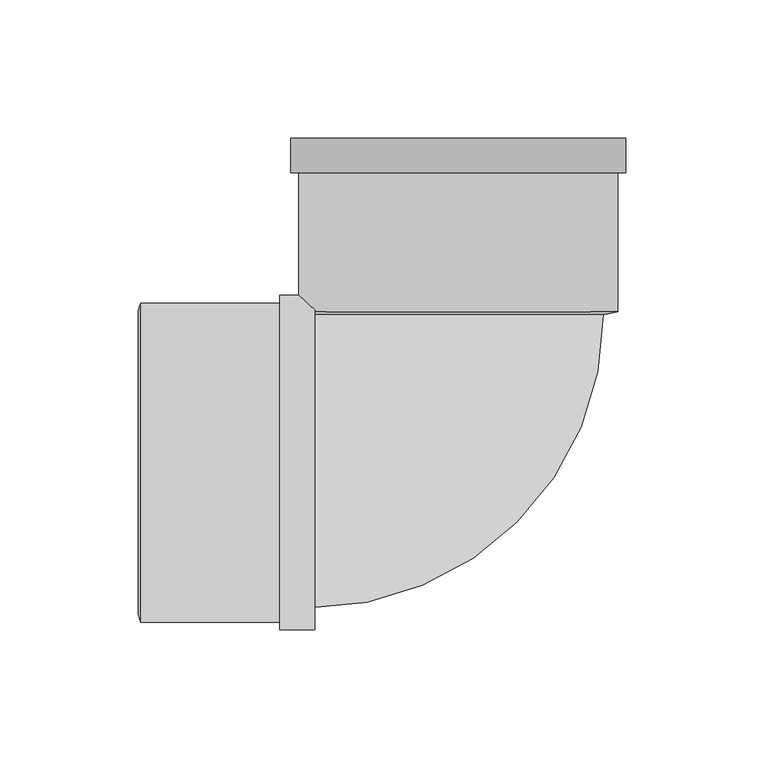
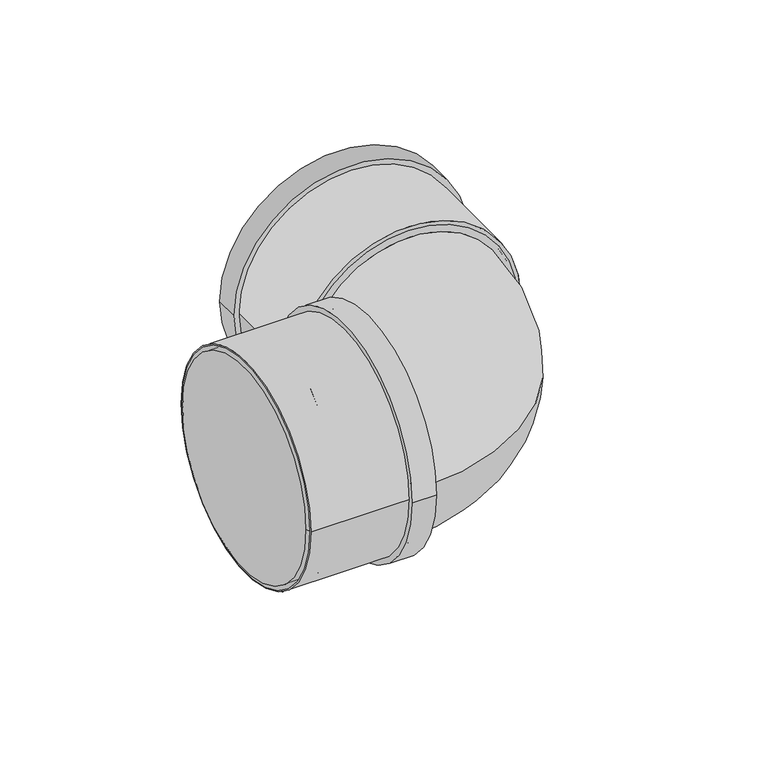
"""IFC4 building model written with IfcOpenShell, lengths in millimetres: pipe fitting geometry, Superdrain HT Bend Composite 2x45 : Superdrain HT Bend Composite 2x45."""

from ifc_helpers import new_model, si_unit, point, frame, origin, origin_2d, place, context, project, spatial, polyline, circle_curve, ellipse_curve, trimmed, segment, composite_curve, outline, extrude, source, transform, mapped, element, save
from ifc_brep_helpers import plane_surface, revolved_surface, advanced_brep


def pipe_fitting_11ccc1d9(model_context):
    return source(origin(), model_context, "Body", "SolidModel", [
        extrude(outline(composite_curve([segment(trimmed(circle_curve(origin_2d(), 57.75), [point((57.75, 0.0))], [point((-57.75, 0.0))], False, "CARTESIAN"), True, "CONTINUOUS"), segment(trimmed(circle_curve(origin_2d(), 57.75), [point((-57.75, 0.0))], [point((57.75, 0.0))], False, "CARTESIAN"), True, "CONTINUOUS")], self_intersect=False), holes=[composite_curve([segment(trimmed(circle_curve(origin_2d(), 55.0), [point((55.0, 0.0))], [point((-55.0, 0.0))], True, "CARTESIAN"), True, "CONTINUOUS"), segment(trimmed(circle_curve(origin_2d(), 55.0), [point((-55.0, 0.0))], [point((55.0, 0.0))], True, "CARTESIAN"), True, "CONTINUOUS")], self_intersect=False)]), frame((-115.0, 0.0, 0.0), z_axis=(1.0, 0.0, 0.0), x_axis=(0.0, 1.0, 0.0)), (0.0, 0.0, 1.0), 63.0),
        extrude(outline(composite_curve([segment(trimmed(circle_curve(origin_2d(), 60.6375), [point((60.6375, 0.0))], [point((-60.6375, 0.0))], False, "CARTESIAN"), True, "CONTINUOUS"), segment(trimmed(circle_curve(origin_2d(), 60.6375), [point((-60.6375, 0.0))], [point((60.6375, 0.0))], False, "CARTESIAN"), True, "CONTINUOUS")], self_intersect=False), holes=[composite_curve([segment(trimmed(circle_curve(origin_2d(), 55.0), [point((55.0, 0.0))], [point((-55.0, 0.0))], True, "CARTESIAN"), True, "CONTINUOUS"), segment(trimmed(circle_curve(origin_2d(), 55.0), [point((-55.0, 0.0))], [point((55.0, 0.0))], True, "CARTESIAN"), True, "CONTINUOUS")], self_intersect=False)]), frame((-64.6, 0.0, 0.0), z_axis=(1.0, 0.0, 0.0), x_axis=(0.0, 1.0, 0.0)), (0.0, 0.0, 1.0), 12.6),
        advanced_brep(
        [(-116.0, 55.0, 0.0), (-116.0, -55.0, 0.0), (-115.0, 57.75, 0.0), (-115.0, -57.75, 0.0)],
        [
            (0, 1, circle_curve(frame((-116.0, 0.0, 0.0), z_axis=(-1.0, 0.0, 0.0), x_axis=(0.0, 1.0000000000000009, 0.0)), 55.0)),
            (1, 0, circle_curve(frame((-116.0, 0.0, 0.0), z_axis=(-1.0, 0.0, 0.0), x_axis=(0.0, -1.0000000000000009, 0.0)), 55.0)),
            (2, 3, circle_curve(frame((-115.0, 0.0, 0.0), z_axis=(1.0, 0.0, 0.0), x_axis=(0.0, -1.0000000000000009, 0.0)), 57.75)),
            (3, 2, circle_curve(frame((-115.0, 0.0, 0.0), z_axis=(1.0, 0.0, 0.0), x_axis=(0.0, 1.0000000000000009, 0.0)), 57.75)),
            (3, 1),
            (0, 2),
        ],
        [
            plane_surface(frame((-116.0, 0.0, 0.0), z_axis=(-1.0, 0.0, 0.0), x_axis=(0.0, 0.0, -1.0))),
            plane_surface(frame((-115.0, 0.0, 0.0), z_axis=(1.0, 0.0, 0.0), x_axis=(0.0, 0.0, -1.0))),
            revolved_surface(polyline([(-116.0, 54.99999999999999, 0.0), (-115.0, 57.75, 0.0)]), (-136.0, 0.0, 0.0), (1.0000000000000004, 0.0, 0.0)),
            revolved_surface(polyline([(-116.0, -54.99999999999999, 0.0), (-115.0, -57.75, 0.0)]), (-136.0, 0.0, 0.0), (1.0000000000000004, 0.0, 0.0)),
        ],
        [
            (0, [[1, 2]]),
            (1, [[3, 4]]),
            (2, [[-4, 5, -1, 6]]),
            (3, [[-3, -6, -2, -5]]),
        ],
    ),
        advanced_brep(
        [(52.6, 53.6, 0.0), (-52.6, 53.6, 0.0), (-53.6, -52.6, 0.0), (-53.6, 52.6, 0.0)],
        [
            (0, 1, circle_curve(frame((0.0, 53.6, 0.0), z_axis=(0.0, 1.0, 0.0), x_axis=(-1.0, 0.0, 0.0)), 52.6)),
            (1, 0, circle_curve(frame((0.0, 53.6, 0.0), z_axis=(0.0, 1.0, 0.0), x_axis=(-1.0, 0.0, 0.0)), 52.6)),
            (2, 3, circle_curve(frame((-53.6, 0.0, 0.0), z_axis=(-1.0, 0.0, 0.0), x_axis=(0.0, 1.0, 0.0)), 52.6)),
            (3, 2, circle_curve(frame((-53.6, 0.0, 0.0), z_axis=(-1.0, 0.0, 0.0), x_axis=(0.0, 1.0, 0.0)), 52.6)),
            (3, 1, circle_curve(frame((-53.6, 53.6, 0.0), z_axis=(0.0, 0.0, 1.0), x_axis=(1.0, 0.0, 0.0)), 1.0)),
            (0, 2, circle_curve(frame((-53.6, 53.6, 0.0), z_axis=(0.0, 0.0, -1.0), x_axis=(1.0, 0.0, 0.0)), 106.2)),
        ],
        [
            plane_surface(frame((0.0, 53.6, 0.0), z_axis=(0.0, 1.0, 0.0), x_axis=(0.0, 0.0, -1.0))),
            plane_surface(frame((-53.6, 0.0, 0.0), z_axis=(-1.0, 0.0, 0.0), x_axis=(0.0, 0.0, -1.0))),
            revolved_surface(trimmed(ellipse_curve(frame((0.0, 53.6, 0.0), z_axis=(0.0, -1.0, 0.0), x_axis=(-1.0, 0.0, 0.0)), 52.6, 52.6), [point((-52.6, 53.6, 0.0))], [point((52.6, 53.6, 0.0))], True, "CARTESIAN"), (-53.6, 53.6, 0.0), (0.0, 0.0, 1.0)),
            revolved_surface(trimmed(ellipse_curve(frame((0.0, 53.6, 0.0), z_axis=(0.0, -1.0, 0.0), x_axis=(-1.0, 0.0, 0.0)), 52.6, 52.6), [point((52.6, 53.6, 0.0))], [point((-52.6, 53.6, 0.0))], True, "CARTESIAN"), (-53.6, 53.6, 0.0), (0.0, 0.0, 1.0)),
        ],
        [
            (0, [[1, 2]]),
            (1, [[3, 4]]),
            (2, [[-4, 5, -1, 6]]),
            (3, [[-3, -6, -2, -5]]),
        ],
    ),
        extrude(outline(composite_curve([segment(trimmed(circle_curve(origin_2d(), 57.75), [point((0.0, 57.75))], [point((0.0, -57.75))], False, "CARTESIAN"), True, "CONTINUOUS"), segment(trimmed(circle_curve(origin_2d(), 57.75), [point((0.0, -57.75))], [point((0.0, 57.75))], False, "CARTESIAN"), True, "CONTINUOUS")], self_intersect=False), holes=[composite_curve([segment(trimmed(circle_curve(origin_2d(), 55.0), [point((0.0, 55.0))], [point((0.0, -55.0))], True, "CARTESIAN"), True, "CONTINUOUS"), segment(trimmed(circle_curve(origin_2d(), 55.0), [point((0.0, -55.0))], [point((0.0, 55.0))], True, "CARTESIAN"), True, "CONTINUOUS")], self_intersect=False)]), frame((0.0, 54.6, 0.0), z_axis=(0.0, 1.0, 0.0), x_axis=(0.0, 0.0, 1.0)), (0.0, 0.0, 1.0), 63.0),
        extrude(outline(composite_curve([segment(trimmed(circle_curve(origin_2d(), 60.6375), [point((0.0, -60.6375))], [point((0.0, 60.6375))], False, "CARTESIAN"), True, "CONTINUOUS"), segment(trimmed(circle_curve(origin_2d(), 60.6375), [point((0.0, 60.6375))], [point((0.0, -60.6375))], False, "CARTESIAN"), True, "CONTINUOUS")], self_intersect=False), holes=[composite_curve([segment(trimmed(circle_curve(origin_2d(), 55.0), [point((0.0, -55.0))], [point((0.0, 55.0))], True, "CARTESIAN"), True, "CONTINUOUS"), segment(trimmed(circle_curve(origin_2d(), 55.0), [point((0.0, 55.0))], [point((0.0, -55.0))], True, "CARTESIAN"), True, "CONTINUOUS")], self_intersect=False)]), frame((0.0, 105.0, 0.0), z_axis=(0.0, 1.0, 0.0), x_axis=(0.0, 0.0, 1.0)), (0.0, 0.0, 1.0), 12.6),
        advanced_brep(
        [(57.75, 54.6, 0.0), (-57.75, 54.6, 0.0), (52.6, 53.6, 0.0), (-52.6, 53.6, 0.0)],
        [
            (0, 1, circle_curve(frame((0.0, 54.6, 0.0), z_axis=(0.0, 1.0, 0.0), x_axis=(1.0, 0.0, 0.0)), 57.75)),
            (1, 0, circle_curve(frame((0.0, 54.6, 0.0), z_axis=(0.0, 1.0, 0.0), x_axis=(-1.0, 0.0, 0.0)), 57.75)),
            (2, 3, circle_curve(frame((0.0, 53.6, 0.0), z_axis=(0.0, -1.0, 0.0), x_axis=(-1.0, 0.0, 0.0)), 52.6)),
            (3, 2, circle_curve(frame((0.0, 53.6, 0.0), z_axis=(0.0, -1.0, 0.0), x_axis=(1.0, 0.0, 0.0)), 52.6)),
            (3, 1),
            (0, 2),
        ],
        [
            plane_surface(frame((0.0, 54.6, 0.0), z_axis=(0.0, 1.0, 0.0), x_axis=(0.0, 0.0, -1.0))),
            plane_surface(frame((0.0, 53.6, 0.0), z_axis=(0.0, -1.0, 0.0), x_axis=(0.0, 0.0, -1.0))),
            revolved_surface(polyline([(-52.599999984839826, 53.6, 0.0), (-57.75, 54.6, 0.0)]), (0.0, 43.3864078, 0.0), (0.0, 1.0, 0.0)),
            revolved_surface(polyline([(52.599999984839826, 53.6, 0.0), (57.75, 54.6, 0.0)]), (0.0, 43.3864078, 0.0), (0.0, 1.0, 0.0)),
        ],
        [
            (0, [[1, 2]]),
            (1, [[3, 4]]),
            (2, [[-4, 5, -1, 6]]),
            (3, [[-3, -6, -2, -5]]),
        ],
    ),
        extrude(outline(composite_curve([segment(trimmed(circle_curve(origin_2d(), 55.0), [point((-55.0, 0.0))], [point((55.0, 0.0))], False, "CARTESIAN"), True, "CONTINUOUS"), segment(trimmed(circle_curve(origin_2d(), 55.0), [point((55.0, 0.0))], [point((-55.0, 0.0))], False, "CARTESIAN"), True, "CONTINUOUS")], self_intersect=False)), frame((-115.0, 0.0, 0.0), z_axis=(1.0, 0.0, 0.0), x_axis=(0.0, 1.0, 0.0)), (0.0, 0.0, 1.0), 61.4),
    ])


if __name__ == "__main__":
    model = new_model("IFC4")
    model_context = context("Model", 3, world=origin())
    ifc_project = project(units=[si_unit("LENGTHUNIT", "METRE", prefix="MILLI")], contexts=[model_context])
    site = spatial("IfcSite", under=ifc_project)
    building = spatial("IfcBuilding", under=site)
    placement = place(None, origin())
    pipe_fitting_shape = pipe_fitting_11ccc1d9(model_context)
    element("IfcPipeFitting", 1, ObjectType="Superdrain HT Bend Composite 2x45 : Superdrain HT Bend Composite 2x45", at=placement, inside=building, context=model_context, shape_type="MappedRepresentation", body=[
        mapped(pipe_fitting_shape, transform((0.0, 0.0, 0.0), x_axis=(1.0, 0.0, 0.0), y_axis=(0.0, 1.0, 0.0), z_axis=(0.0, 0.0, 1.0))),
    ])
    save(model, "model.ifc")
